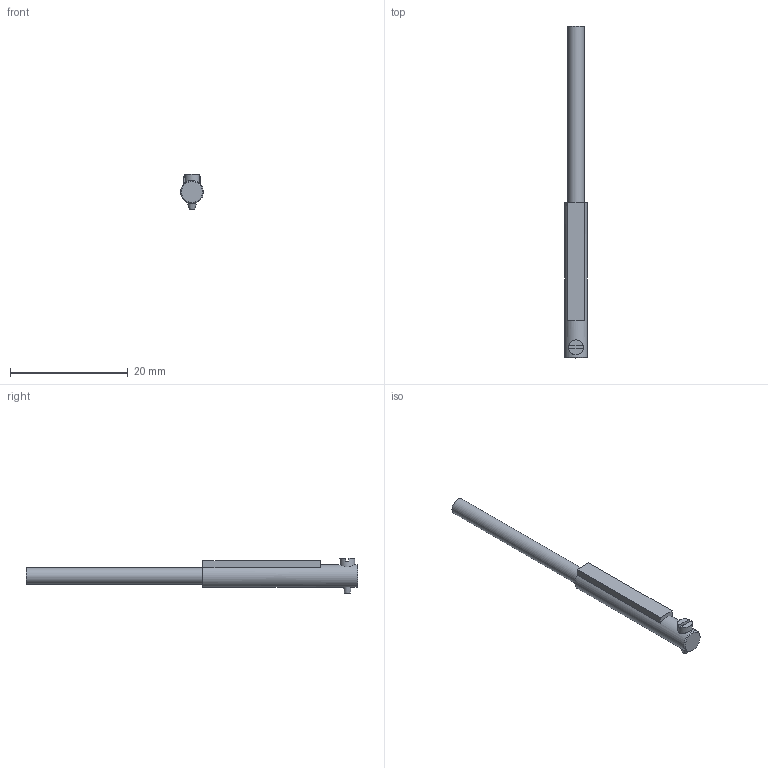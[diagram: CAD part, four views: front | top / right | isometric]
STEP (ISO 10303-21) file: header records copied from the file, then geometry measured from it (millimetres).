
FILE_DESCRIPTION(('FreeCAD Model'),'2;1');
FILE_NAME('Open CASCADE Shape Model','2025-09-16T14:27:53',(''),(''), 'Open CASCADE STEP processor 7.6','FreeCAD','Unknown');
FILE_SCHEMA(('AUTOMOTIVE_DESIGN { 1 0 10303 214 1 1 1 1 }'));
Length unit declared in the file: millimetre
Products named in the file (3): Unnamed1; ZYCM-04; Anschluß
Assembly tree (2 placements, depth 2):
  Unnamed1
    ZYCM-04
    Anschluß
Bounding box: 3.9 x 56.3 x 6 mm (x, y, z)
Volume: 548.9 mm3; surface area: 681.7 mm2
Topology: 2 solids, 2 shells, 21 faces, 41 edges, 26 vertices
Faces by surface type: plane 16, cylinder 3, cone 2
Full cylindrical faces by diameter (mm): 2.5 x1, 2.8 x1, 3.9 x1
Entity records: 795 total; most frequent: CARTESIAN_POINT 293, DIRECTION 98, ORIENTED_EDGE 82, EDGE_CURVE 41, AXIS2_PLACEMENT_3D 38, VERTEX_POINT 26, FACE_BOUND 23, EDGE_LOOP 23
